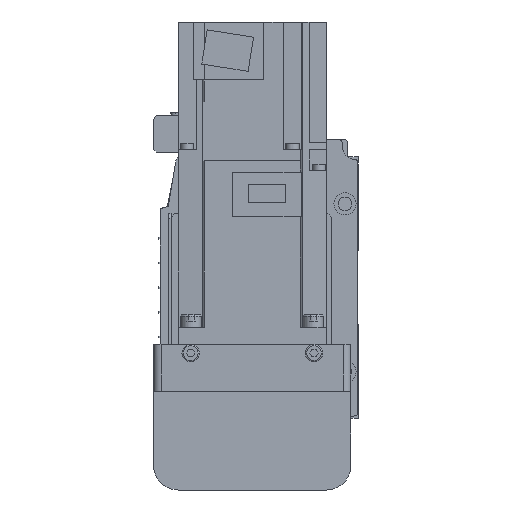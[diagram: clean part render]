
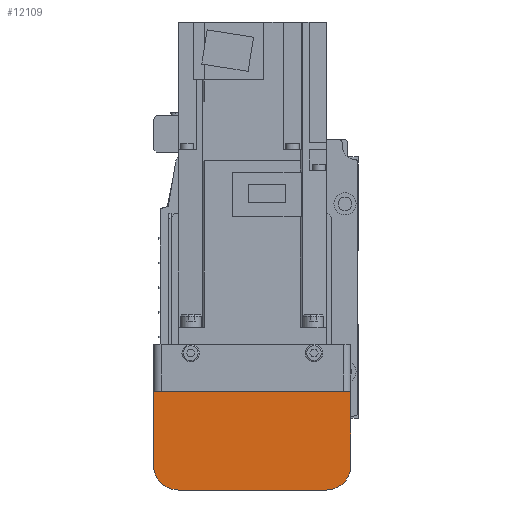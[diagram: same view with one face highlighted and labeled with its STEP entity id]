
A CAD part, left-side view. The second image highlights one B-rep face of the part: STEP entity #12109.
In plain terms, the highlighted planar face has unit normal (-1, 0, 0).
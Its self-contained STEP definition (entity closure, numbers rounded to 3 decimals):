
#455=CIRCLE('',#13027,10.);
#456=CIRCLE('',#13028,10.);
#2082=ORIENTED_EDGE('',*,*,#4913,.F.);
#2083=ORIENTED_EDGE('',*,*,#4914,.F.);
#2084=ORIENTED_EDGE('',*,*,#4915,.F.);
#2085=ORIENTED_EDGE('',*,*,#4916,.F.);
#2086=ORIENTED_EDGE('',*,*,#4917,.F.);
#2087=ORIENTED_EDGE('',*,*,#4918,.F.);
#4913=EDGE_CURVE('',#6435,#6431,#7669,.T.);
#4914=EDGE_CURVE('',#6447,#6435,#7670,.T.);
#4915=EDGE_CURVE('',#6448,#6447,#455,.T.);
#4916=EDGE_CURVE('',#6449,#6448,#7671,.T.);
#4917=EDGE_CURVE('',#6450,#6449,#456,.T.);
#4918=EDGE_CURVE('',#6431,#6450,#7672,.T.);
#6431=VERTEX_POINT('',#18859);
#6435=VERTEX_POINT('',#18869);
#6447=VERTEX_POINT('',#18898);
#6448=VERTEX_POINT('',#18900);
#6449=VERTEX_POINT('',#18902);
#6450=VERTEX_POINT('',#18904);
#7669=LINE('',#18896,#8897);
#7670=LINE('',#18897,#8898);
#7671=LINE('',#18901,#8899);
#7672=LINE('',#18905,#8900);
#8897=VECTOR('',#15196,1000.);
#8898=VECTOR('',#15197,1000.);
#8899=VECTOR('',#15200,1000.);
#8900=VECTOR('',#15203,1000.);
#9952=EDGE_LOOP('',(#2082,#2083,#2084,#2085,#2086,#2087));
#10834=FACE_BOUND('',#9952,.T.);
#11559=PLANE('',#13026);
#12109=ADVANCED_FACE('',(#10834),#11559,.F.);
#13026=AXIS2_PLACEMENT_3D('',#18895,#15194,#15195);
#13027=AXIS2_PLACEMENT_3D('',#18899,#15198,#15199);
#13028=AXIS2_PLACEMENT_3D('',#18903,#15201,#15202);
#15194=DIRECTION('',(1.,0.,0.));
#15195=DIRECTION('',(0.,0.,-1.));
#15196=DIRECTION('',(0.,-1.,0.));
#15197=DIRECTION('',(0.,0.,1.));
#15198=DIRECTION('',(1.,0.,0.));
#15199=DIRECTION('',(0.,0.,-1.));
#15200=DIRECTION('',(0.,1.,0.));
#15201=DIRECTION('',(1.,0.,0.));
#15202=DIRECTION('',(0.,0.,-1.));
#15203=DIRECTION('',(0.,0.,-1.));
#18859=CARTESIAN_POINT('',(-192.,-40.,-12.1));
#18869=CARTESIAN_POINT('',(-192.,40.,-12.1));
#18895=CARTESIAN_POINT('',(-192.,37.,7.));
#18896=CARTESIAN_POINT('',(-192.,50.,-12.1));
#18897=CARTESIAN_POINT('',(-192.,40.,-42.));
#18898=CARTESIAN_POINT('',(-192.,40.,-42.));
#18899=CARTESIAN_POINT('',(-192.,30.,-42.));
#18900=CARTESIAN_POINT('',(-192.,30.,-52.));
#18901=CARTESIAN_POINT('',(-192.,-30.,-52.));
#18902=CARTESIAN_POINT('',(-192.,-30.,-52.));
#18903=CARTESIAN_POINT('',(-192.,-30.,-42.));
#18904=CARTESIAN_POINT('',(-192.,-40.,-42.));
#18905=CARTESIAN_POINT('',(-192.,-40.,-12.1));
